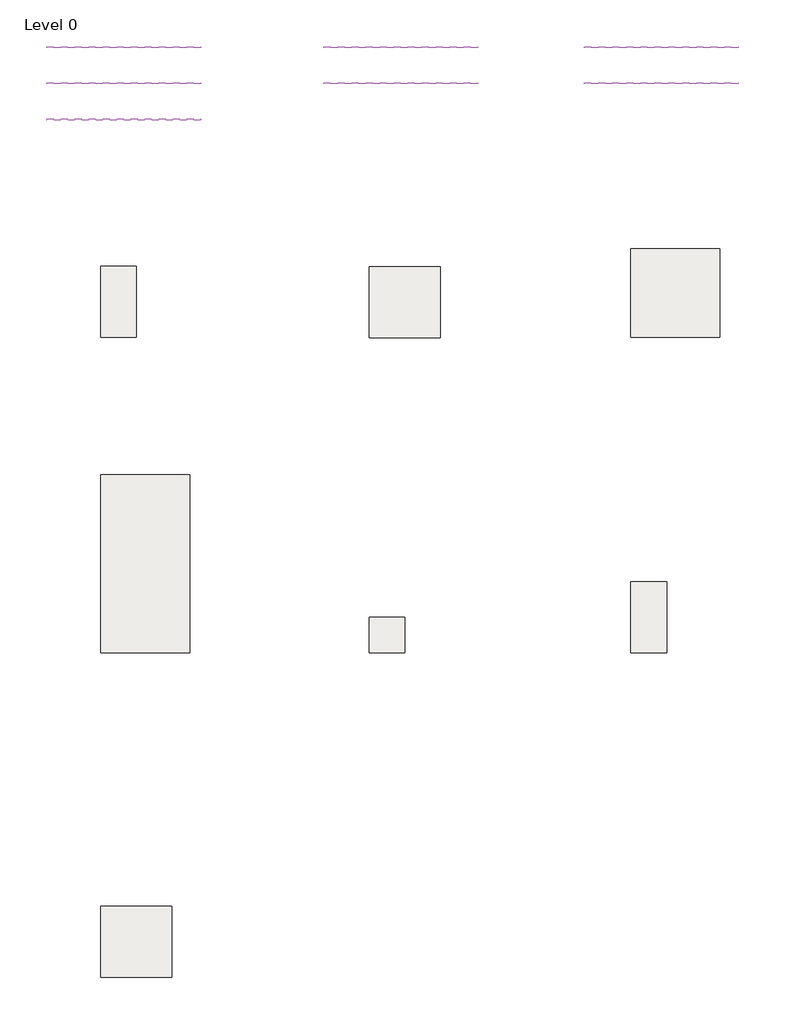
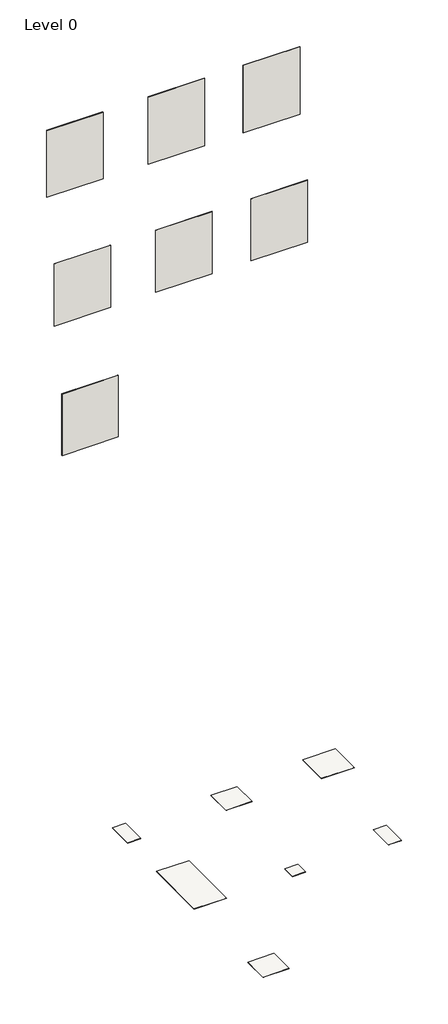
# One storey: 7 slabs, 7 walls.
"""IFC4 building model written with IfcOpenShell, lengths in millimetres."""

from ifc_helpers import new_model, si_unit, frame, origin, place, context, project, spatial, polyline, outline, extrude, element, save

model = new_model("IFC4")

# Units and contexts
model_context = context("Model", 3, world=origin())
ifc_project = project(units=[si_unit("LENGTHUNIT", "METRE", prefix="MILLI")], contexts=[model_context])

# Site, building, storey
site = spatial("IfcSite", under=ifc_project)
building = spatial("IfcBuilding", under=site)
storey = spatial("IfcBuildingStorey", under=building, Name="Level 0", Elevation=0.0)

# Slabs
placement = place(None, origin())
element("IfcSlab", 1, ObjectType="Floor_Tiles_Refin-Prestigio-Botticino-Lucido-30x60 NH01", at=placement, inside=storey, context=model_context, shape_type="SweptSolid", body=[
    extrude(outline(polyline([(6674.3752062, 6289.4623743), (6674.3752062, 5689.4623743), (6374.3752062, 5689.4623743), (6374.3752062, 6289.4623743), (6674.3752062, 6289.4623743)])), frame((0.0, 0.0, -10.0), z_axis=(0.0, 0.0, 1.0), x_axis=(1.0, 0.0, 0.0)), (0.0, 0.0, 1.0), 10.0),
])
element("IfcSlab", 2, ObjectType="Floor_Tiles_Refin-Prestigio-Botticino-Lucido-75x150 LX59", at=placement, inside=storey, context=model_context, shape_type="SweptSolid", body=[
    extrude(outline(polyline([(7124.3752062, 4529.4623743), (7124.3752062, 3029.4623743), (6374.3752062, 3029.4623743), (6374.3752062, 4529.4623743), (7124.3752062, 4529.4623743)])), frame((0.0, 0.0, -10.0), z_axis=(0.0, 0.0, 1.0), x_axis=(1.0, 0.0, 0.0)), (0.0, 0.0, 1.0), 10.0),
])
element("IfcSlab", 3, ObjectType="Floor_Tiles_Refin-Prestigio-Botticino-Lucido-Mosaico-30x30 LX42", at=placement, inside=storey, context=model_context, shape_type="SweptSolid", body=[
    extrude(outline(polyline([(8942.3924055, 3329.4623743), (8942.3924055, 3029.4623743), (8642.3924055, 3029.4623743), (8642.3924055, 3329.4623743), (8942.3924055, 3329.4623743)])), frame((0.0, 0.0, -10.0), z_axis=(0.0, 0.0, 1.0), x_axis=(1.0, 0.0, 0.0)), (0.0, 0.0, 1.0), 10.0),
])
element("IfcSlab", 4, ObjectType="Floor_Tiles_Refin-Prestigio-Botticino-Lucido-60x60 LX58", at=placement, inside=storey, context=model_context, shape_type="SweptSolid", body=[
    extrude(outline(polyline([(9242.3924055, 6288.4192064), (9242.3924055, 5688.4192064), (8642.3924055, 5688.4192064), (8642.3924055, 6288.4192064), (9242.3924055, 6288.4192064)])), frame((0.0, 0.0, -10.0), z_axis=(0.0, 0.0, 1.0), x_axis=(1.0, 0.0, 0.0)), (0.0, 0.0, 1.0), 10.0),
])
element("IfcSlab", 5, ObjectType="Floor_Tiles_Refin-Prestigio-Botticino-Soft-30x60 NE82", at=placement, inside=storey, context=model_context, shape_type="SweptSolid", body=[
    extrude(outline(polyline([(11150.4118688, 3629.4623743), (11150.4118688, 3029.4623743), (10850.4118688, 3029.4623743), (10850.4118688, 3629.4623743), (11150.4118688, 3629.4623743)])), frame((0.0, 0.0, -10.0), z_axis=(0.0, 0.0, 1.0), x_axis=(1.0, 0.0, 0.0)), (0.0, 0.0, 1.0), 10.0),
])
element("IfcSlab", 6, ObjectType="Floor_Tiles_Refin-Prestigio-Botticino-Lucido-75x75 LX60", at=placement, inside=storey, context=model_context, shape_type="SweptSolid", body=[
    extrude(outline(polyline([(11600.4118688, 6439.4623743), (11600.4118688, 5689.4623743), (10850.4118688, 5689.4623743), (10850.4118688, 6439.4623743), (11600.4118688, 6439.4623743)])), frame((0.0, 0.0, -10.0), z_axis=(0.0, 0.0, 1.0), x_axis=(1.0, 0.0, 0.0)), (0.0, 0.0, 1.0), 10.0),
])
element("IfcSlab", 7, ObjectType="Floor_Tiles_Refin-Prestigio-Botticino-Soft-60x60 LX54", at=placement, inside=storey, context=model_context, shape_type="SweptSolid", body=[
    extrude(outline(polyline([(6974.3752062, 887.4110727), (6974.3752062, 287.4110727), (6374.3752062, 287.4110727), (6374.3752062, 887.4110727), (6974.3752062, 887.4110727)])), frame((0.0, 0.0, -10.0), z_axis=(0.0, 0.0, 1.0), x_axis=(1.0, 0.0, 0.0)), (0.0, 0.0, 1.0), 10.0),
])

# Walls
element("IfcWall", 8, ObjectType="Wall_Tiles_Refin-Prestigio-Botticino-Lucido-60x60 LX58", at=placement, inside=storey, context=model_context, shape_type="SweptSolid", body=[
    extrude(outline(polyline([(9557.3752062, 8132.3838631), (8257.3752062, 8132.3838631), (8257.3752062, 8142.3838631), (9557.3752062, 8142.3838631), (9557.3752062, 8132.3838631)])), frame((0.0, 0.0, 14387.6770443), z_axis=(0.0, 0.0, 1.0), x_axis=(1.0, 0.0, 0.0)), (0.0, 0.0, 1.0), 1641.7417352),
])
element("IfcWall", 9, ObjectType="Wall_Tiles_Refin-Prestigio-Botticino-Lucido-75x75 LX60", at=placement, inside=storey, context=model_context, shape_type="SweptSolid", body=[
    extrude(outline(polyline([(11757.3752062, 8132.3838631), (10457.3752062, 8132.3838631), (10457.3752062, 8142.3838631), (11757.3752062, 8142.3838631), (11757.3752062, 8132.3838631)])), frame((0.0, 0.0, 14387.6770443), z_axis=(0.0, 0.0, 1.0), x_axis=(1.0, 0.0, 0.0)), (0.0, 0.0, 1.0), 1641.7417352),
])
element("IfcWall", 10, ObjectType="Wall_Tiles_Refin-Prestigio-Botticino-Lucido-30x60 NH01", at=placement, inside=storey, context=model_context, shape_type="SweptSolid", body=[
    extrude(outline(polyline([(7217.3752062, 8132.3838631), (5917.3752062, 8132.3838631), (5917.3752062, 8142.3838631), (7217.3752062, 8142.3838631), (7217.3752062, 8132.3838631)])), frame((0.0, 0.0, 14403.7267346), z_axis=(0.0, 0.0, 1.0), x_axis=(1.0, 0.0, 0.0)), (0.0, 0.0, 1.0), 1625.692045),
])
element("IfcWall", 11, ObjectType="Wall_Tiles_Refin-Prestigio-Botticino-Lucido-Mosaico-30x30 LX42", at=placement, inside=storey, context=model_context, shape_type="SweptSolid", body=[
    extrude(outline(polyline([(9557.3752062, 7827.3838631), (8257.3752062, 7827.3838631), (8257.3752062, 7837.3838631), (9557.3752062, 7837.3838631), (9557.3752062, 7827.3838631)])), frame((0.0, 0.0, 11452.5436262), z_axis=(0.0, 0.0, 1.0), x_axis=(1.0, 0.0, 0.0)), (0.0, 0.0, 1.0), 1513.1985566),
])
element("IfcWall", 12, ObjectType="Wall_Tiles_Refin-Prestigio-Botticino-Soft-60x60 LX54", at=placement, inside=storey, context=model_context, shape_type="SweptSolid", body=[
    extrude(outline(polyline([(7217.3752062, 7522.3838631), (5917.3752062, 7522.3838631), (5917.3752062, 7532.3838631), (7217.3752062, 7532.3838631), (7217.3752062, 7522.3838631)])), frame((0.0, 0.0, 8479.1027214), z_axis=(0.0, 0.0, 1.0), x_axis=(1.0, 0.0, 0.0)), (0.0, 0.0, 1.0), 1502.5740159),
])
element("IfcWall", 13, ObjectType="Wall_Tiles_Refin-Prestigio-Botticino-Lucido-75x150 LX59", at=placement, inside=storey, context=model_context, shape_type="SweptSolid", body=[
    extrude(outline(polyline([(5917.3752062, 7837.3838631), (7217.3752062, 7837.3838631), (7217.3752062, 7827.3838631), (5917.3752062, 7827.3838631), (5917.3752062, 7837.3838631)])), frame((0.0, 0.0, 11452.5436262), z_axis=(0.0, 0.0, 1.0), x_axis=(1.0, 0.0, 0.0)), (0.0, 0.0, 1.0), 1513.1985566),
])
element("IfcWall", 14, ObjectType="Wall_Tiles_Refin-Prestigio-Botticino-Soft-30x60 NE82", at=placement, inside=storey, context=model_context, shape_type="SweptSolid", body=[
    extrude(outline(polyline([(10457.3752062, 7837.3838631), (11757.3752062, 7837.3838631), (11757.3752062, 7827.3838631), (10457.3752062, 7827.3838631), (10457.3752062, 7837.3838631)])), frame((0.0, 0.0, 11452.5436262), z_axis=(0.0, 0.0, 1.0), x_axis=(1.0, 0.0, 0.0)), (0.0, 0.0, 1.0), 1513.1985566),
])

save(model, "model.ifc")
